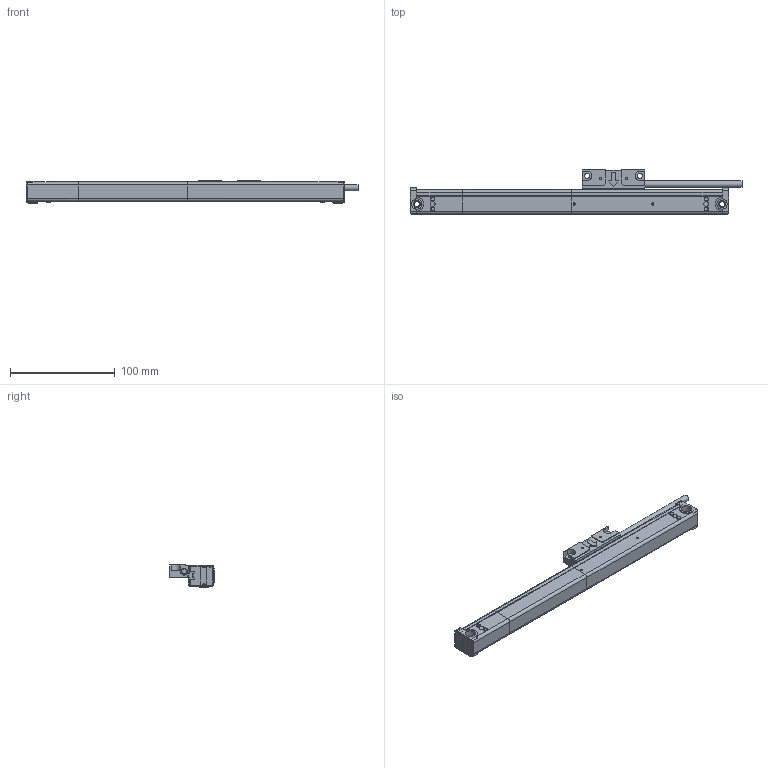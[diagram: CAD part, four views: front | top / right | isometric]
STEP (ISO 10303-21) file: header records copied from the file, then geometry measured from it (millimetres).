
FILE_DESCRIPTION( ( 'STEP AP203' ), '1' );
FILE_NAME( 'N:/Engineering/CAD_Solid/Magnescale/GBER/GB-020ER_SR138-020R.stp', '2013-03-14T10:08:10', ( ' ' ), ( ' ' ), 'XStep 1.0', ' ', ' ' );
FILE_SCHEMA( ( 'CONFIG_CONTROL_DESIGN) ( )' ) );
Length unit declared in the file: metre
Products named in the file (1): 1
Bounding box: 316.5 x 42 x 21 mm (x, y, z)
Surface area: 37268.1 mm2 (no closed solid volume)
Topology: 0 solids, 297 shells, 297 faces, 1627 edges, 1590 vertices
Faces by surface type: plane 187, cylinder 89, torus 12, cone 9
Full cylindrical faces by diameter (mm): 2.013 x2, 2.113 x2, 3.242 x2, 4 x8, 4.8 x1, 5 x2, 5.2 x2, 6 x1, 9.8 x2, 10 x2
Entity records: 15703 total; most frequent: CARTESIAN_POINT 3456, DIRECTION 2654, ORIENTED_EDGE 1579, EDGE_CURVE 1579, VERTEX_POINT 1579, LINE 1100, VECTOR 1100, AXIS2_PLACEMENT_3D 777
